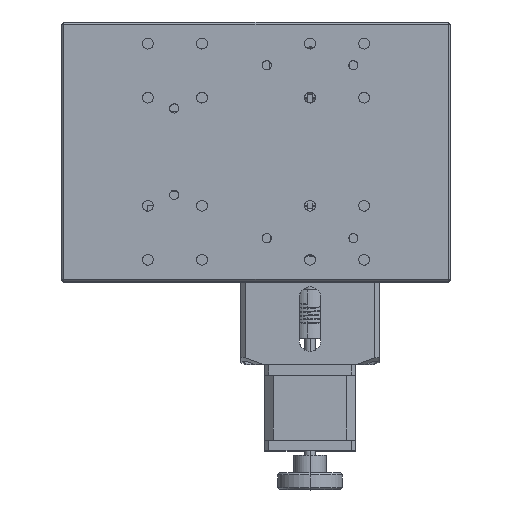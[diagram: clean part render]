
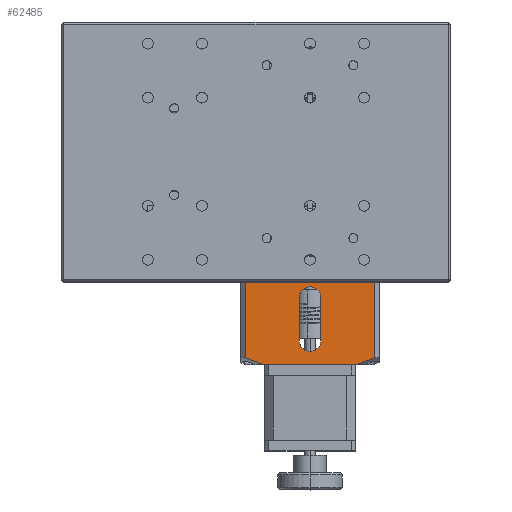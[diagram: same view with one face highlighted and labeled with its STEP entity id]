
A CAD part, top view. The second image highlights one B-rep face of the part: STEP entity #62485.
In plain terms, the highlighted planar face has unit normal (0, 0, 1).
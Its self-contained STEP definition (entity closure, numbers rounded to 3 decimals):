
#99 = LINE ( 'NONE', #37802, #91992 ) ;
#178 = DIRECTION ( 'NONE',  ( 0., -1., 0. ) ) ;
#340 = ORIENTED_EDGE ( 'NONE', *, *, #65299, .F. ) ;
#1931 = VERTEX_POINT ( 'NONE', #39440 ) ;
#3595 = DIRECTION ( 'NONE',  ( 0., 0., 1. ) ) ;
#4392 = VERTEX_POINT ( 'NONE', #100560 ) ;
#5384 = VERTEX_POINT ( 'NONE', #49692 ) ;
#6813 = CARTESIAN_POINT ( 'NONE',  ( 137.968, 28.633, 159.17 ) ) ;
#7069 = EDGE_CURVE ( 'NONE', #5384, #12570, #50631, .T. ) ;
#7838 = ORIENTED_EDGE ( 'NONE', *, *, #105440, .F. ) ;
#11777 = ORIENTED_EDGE ( 'NONE', *, *, #61738, .F. ) ;
#12570 = VERTEX_POINT ( 'NONE', #6813 ) ;
#14118 = CARTESIAN_POINT ( 'NONE',  ( 162.968, 20.72, 159.17 ) ) ;
#14729 = LINE ( 'NONE', #58472, #27309 ) ;
#14731 = ORIENTED_EDGE ( 'NONE', *, *, #84765, .T. ) ;
#15703 = CARTESIAN_POINT ( 'NONE',  ( 127.968, 48.633, 159.17 ) ) ;
#17224 = VECTOR ( 'NONE', #96217, 1000. ) ;
#18716 = DIRECTION ( 'NONE',  ( 0., 1., 0. ) ) ;
#21406 = CARTESIAN_POINT ( 'NONE',  ( 102.968, 20.72, 159.17 ) ) ;
#22962 = CARTESIAN_POINT ( 'NONE',  ( 100.968, 17.633, 159.17 ) ) ;
#23764 = LINE ( 'NONE', #88111, #52949 ) ;
#25445 = AXIS2_PLACEMENT_3D ( 'NONE', #69451, #114121, #88896 ) ;
#25843 = CARTESIAN_POINT ( 'NONE',  ( 102.968, 20.72, 159.17 ) ) ;
#26434 = EDGE_CURVE ( 'NONE', #57014, #73288, #23764, .T. ) ;
#26624 = CARTESIAN_POINT ( 'NONE',  ( 137.968, 48.633, 159.17 ) ) ;
#27309 = VECTOR ( 'NONE', #110652, 1000. ) ;
#28221 = ORIENTED_EDGE ( 'NONE', *, *, #110892, .F. ) ;
#28943 = ORIENTED_EDGE ( 'NONE', *, *, #81088, .T. ) ;
#29244 = ORIENTED_EDGE ( 'NONE', *, *, #7069, .F. ) ;
#30813 = EDGE_LOOP ( 'NONE', ( #14731, #46922, #28943, #28221, #52454, #81594 ) ) ;
#31101 = LINE ( 'NONE', #15703, #17224 ) ;
#32565 = CARTESIAN_POINT ( 'NONE',  ( 111.544, 17.633, 159.17 ) ) ;
#34009 = CARTESIAN_POINT ( 'NONE',  ( 111.544, 17.633, 159.17 ) ) ;
#34406 = B_SPLINE_CURVE_WITH_KNOTS ( 'NONE', 3,
 ( #25843, #52225, #96209, #34009 ),
 .UNSPECIFIED., .F., .F.,
 ( 4, 4 ),
 ( 0.044, 0.053 ),
 .UNSPECIFIED. ) ;
#37802 = CARTESIAN_POINT ( 'NONE',  ( 162.968, 17.633, 159.17 ) ) ;
#39440 = CARTESIAN_POINT ( 'NONE',  ( 162.968, 55.633, 159.17 ) ) ;
#43854 = EDGE_CURVE ( 'NONE', #88784, #1931, #99, .T. ) ;
#45689 = AXIS2_PLACEMENT_3D ( 'NONE', #101199, #3595, #74785 ) ;
#46922 = ORIENTED_EDGE ( 'NONE', *, *, #26434, .T. ) ;
#47647 = CARTESIAN_POINT ( 'NONE',  ( 154.392, 17.633, 159.17 ) ) ;
#49692 = CARTESIAN_POINT ( 'NONE',  ( 127.968, 28.633, 159.17 ) ) ;
#50631 = CIRCLE ( 'NONE', #109277, 5. ) ;
#52225 = CARTESIAN_POINT ( 'NONE',  ( 105.804, 19.637, 159.17 ) ) ;
#52454 = ORIENTED_EDGE ( 'NONE', *, *, #72158, .T. ) ;
#52949 = VECTOR ( 'NONE', #178, 1000. ) ;
#54952 = VECTOR ( 'NONE', #61175, 1000. ) ;
#57014 = VERTEX_POINT ( 'NONE', #82915 ) ;
#58472 = CARTESIAN_POINT ( 'NONE',  ( 100.968, 55.633, 159.17 ) ) ;
#60792 = B_SPLINE_CURVE_WITH_KNOTS ( 'NONE', 3,
 ( #103570, #86438, #77117, #14118 ),
 .UNSPECIFIED., .F., .F.,
 ( 4, 4 ),
 ( 0.097, 0.106 ),
 .UNSPECIFIED. ) ;
#61175 = DIRECTION ( 'NONE',  ( 0., 1., 0. ) ) ;
#61224 = PLANE ( 'NONE',  #25445 ) ;
#61738 = EDGE_CURVE ( 'NONE', #4392, #5384, #31101, .T. ) ;
#62485 = ADVANCED_FACE ( 'NONE', ( #83858, #74055 ), #61224, .F. ) ;
#65299 = EDGE_CURVE ( 'NONE', #108253, #4392, #102760, .T. ) ;
#65450 = CARTESIAN_POINT ( 'NONE',  ( 132.968, 28.633, 159.17 ) ) ;
#68428 = CARTESIAN_POINT ( 'NONE',  ( 137.968, 48.633, 159.17 ) ) ;
#69451 = CARTESIAN_POINT ( 'NONE',  ( 100.968, 17.633, 159.17 ) ) ;
#72158 = EDGE_CURVE ( 'NONE', #99898, #88784, #60792, .T. ) ;
#73288 = VERTEX_POINT ( 'NONE', #21406 ) ;
#74055 = FACE_OUTER_BOUND ( 'NONE', #30813, .T. ) ;
#74785 = DIRECTION ( 'NONE',  ( -1., 0., 0. ) ) ;
#76398 = VERTEX_POINT ( 'NONE', #32565 ) ;
#77117 = CARTESIAN_POINT ( 'NONE',  ( 160.132, 19.637, 159.17 ) ) ;
#81088 = EDGE_CURVE ( 'NONE', #73288, #76398, #34406, .T. ) ;
#81594 = ORIENTED_EDGE ( 'NONE', *, *, #43854, .T. ) ;
#82915 = CARTESIAN_POINT ( 'NONE',  ( 102.968, 55.633, 159.17 ) ) ;
#83507 = LINE ( 'NONE', #22962, #108613 ) ;
#83774 = DIRECTION ( 'NONE',  ( 0., 0., 1. ) ) ;
#83858 = FACE_BOUND ( 'NONE', #85150, .T. ) ;
#84765 = EDGE_CURVE ( 'NONE', #1931, #57014, #14729, .T. ) ;
#85150 = EDGE_LOOP ( 'NONE', ( #11777, #340, #7838, #29244 ) ) ;
#86438 = CARTESIAN_POINT ( 'NONE',  ( 157.279, 18.595, 159.17 ) ) ;
#88111 = CARTESIAN_POINT ( 'NONE',  ( 102.968, 17.633, 159.17 ) ) ;
#88784 = VERTEX_POINT ( 'NONE', #91085 ) ;
#88896 = DIRECTION ( 'NONE',  ( 1., 0., 0. ) ) ;
#91085 = CARTESIAN_POINT ( 'NONE',  ( 162.968, 20.72, 159.17 ) ) ;
#91992 = VECTOR ( 'NONE', #18716, 1000. ) ;
#96209 = CARTESIAN_POINT ( 'NONE',  ( 108.659, 18.594, 159.17 ) ) ;
#96217 = DIRECTION ( 'NONE',  ( 0., -1., 0. ) ) ;
#99898 = VERTEX_POINT ( 'NONE', #47647 ) ;
#100560 = CARTESIAN_POINT ( 'NONE',  ( 127.968, 48.633, 159.17 ) ) ;
#101199 = CARTESIAN_POINT ( 'NONE',  ( 132.968, 48.633, 159.17 ) ) ;
#102760 = CIRCLE ( 'NONE', #45689, 5. ) ;
#103570 = CARTESIAN_POINT ( 'NONE',  ( 154.392, 17.633, 159.17 ) ) ;
#103748 = LINE ( 'NONE', #26624, #54952 ) ;
#105440 = EDGE_CURVE ( 'NONE', #12570, #108253, #103748, .T. ) ;
#108253 = VERTEX_POINT ( 'NONE', #68428 ) ;
#108613 = VECTOR ( 'NONE', #111599, 1000. ) ;
#109277 = AXIS2_PLACEMENT_3D ( 'NONE', #65450, #83774, #110193 ) ;
#110193 = DIRECTION ( 'NONE',  ( -1., 0., 0. ) ) ;
#110652 = DIRECTION ( 'NONE',  ( -1., 0., 0. ) ) ;
#110892 = EDGE_CURVE ( 'NONE', #99898, #76398, #83507, .T. ) ;
#111599 = DIRECTION ( 'NONE',  ( -1., 0., 0. ) ) ;
#114121 = DIRECTION ( 'NONE',  ( 0., 0., -1. ) ) ;
